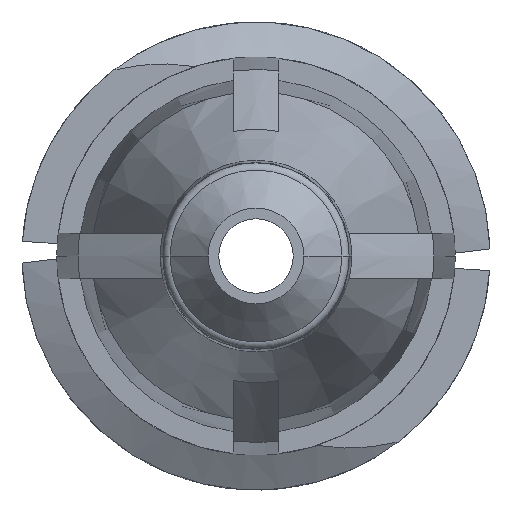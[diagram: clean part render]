
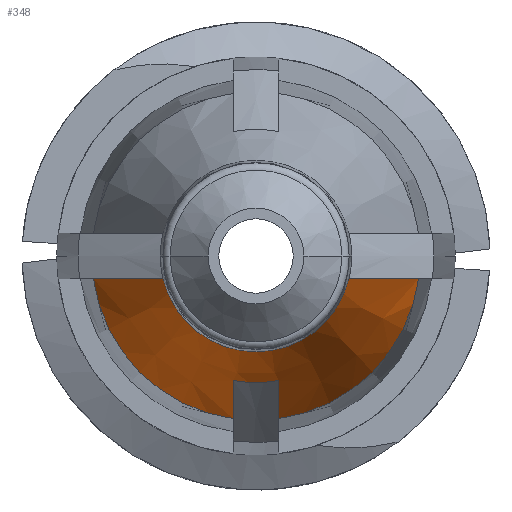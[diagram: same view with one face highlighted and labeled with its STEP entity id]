
A CAD part, front view. The second image highlights one B-rep face of the part: STEP entity #348.
In plain terms, the highlighted conical face has half-angle 20 degrees and reference radius 2.745 mm.
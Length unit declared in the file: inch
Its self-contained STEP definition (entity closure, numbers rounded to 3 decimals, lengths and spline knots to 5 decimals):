
#106 = VERTEX_POINT ( 'NONE', #3025 ) ;
#109 = VERTEX_POINT ( 'NONE', #1720 ) ;
#130 = CIRCLE ( 'NONE', #3106, 0.063 ) ;
#260 = DIRECTION ( 'NONE',  ( 1., 0., 0. ) ) ;
#264 = VERTEX_POINT ( 'NONE', #686 ) ;
#268 = DIRECTION ( 'NONE',  ( 1., 0., 0. ) ) ;
#345 = CARTESIAN_POINT ( 'NONE',  ( -0.015, -0.47395, -0.08198 ) ) ;
#348 = ADVANCED_FACE ( 'NONE', ( #1577 ), #950, .T. ) ;
#349 = CARTESIAN_POINT ( 'NONE',  ( 0.015, -0.47395, -0.08198 ) ) ;
#351 = EDGE_CURVE ( 'NONE', #2028, #3235, #2792, .T. ) ;
#360 = CARTESIAN_POINT ( 'NONE',  ( -0.07664, -0.48863, -0.015 ) ) ;
#374 = DIRECTION ( 'NONE',  ( 1., 0., 0. ) ) ;
#391 = CARTESIAN_POINT ( 'NONE',  ( 0.015, -0.406, -0.10703 ) ) ;
#397 = CARTESIAN_POINT ( 'NONE',  ( 0.10703, -0.406, -0.015 ) ) ;
#401 = EDGE_CURVE ( 'NONE', #1394, #264, #130, .T. ) ;
#416 = ORIENTED_EDGE ( 'NONE', *, *, #2676, .F. ) ;
#513 = AXIS2_PLACEMENT_3D ( 'NONE', #1334, #2452, #1602 ) ;
#517 = DIRECTION ( 'NONE',  ( 0., 1., 0. ) ) ;
#622 = CARTESIAN_POINT ( 'NONE',  ( 0.015, -0.47395, -0.08198 ) ) ;
#638 = EDGE_CURVE ( 'NONE', #1394, #109, #949, .T. ) ;
#670 = B_SPLINE_CURVE_WITH_KNOTS ( 'NONE', 3,
 ( #3366, #360, #2824, #2019 ),
 .UNSPECIFIED., .F., .F.,
 ( 4, 4 ),
 ( 0.00282, 0.00617 ),
 .UNSPECIFIED. ) ;
#679 = ORIENTED_EDGE ( 'NONE', *, *, #401, .T. ) ;
#686 = CARTESIAN_POINT ( 'NONE',  ( -0.06119, -0.52985, -0.015 ) ) ;
#808 = CIRCLE ( 'NONE', #1064, 0.10808 ) ;
#818 = EDGE_CURVE ( 'NONE', #3235, #106, #1411, .T. ) ;
#840 = DIRECTION ( 'NONE',  ( 1., 0., 0. ) ) ;
#866 = CARTESIAN_POINT ( 'NONE',  ( 0.015, -0.406, -0.10703 ) ) ;
#897 = CARTESIAN_POINT ( 'NONE',  ( -0.015, -0.406, -0.10703 ) ) ;
#949 = B_SPLINE_CURVE_WITH_KNOTS ( 'NONE', 3,
 ( #2365, #1818, #2903, #397 ),
 .UNSPECIFIED., .F., .F.,
 ( 4, 4 ),
 ( 0.00282, 0.00617 ),
 .UNSPECIFIED. ) ;
#950 = CONICAL_SURFACE ( 'NONE', #2864, 0.10808, 0.349 ) ;
#1004 = ORIENTED_EDGE ( 'NONE', *, *, #2661, .T. ) ;
#1025 = CARTESIAN_POINT ( 'NONE',  ( 0.06119, -0.52985, -0.015 ) ) ;
#1064 = AXIS2_PLACEMENT_3D ( 'NONE', #2488, #1953, #840 ) ;
#1205 = DIRECTION ( 'NONE',  ( 0., 1., 0. ) ) ;
#1226 = B_SPLINE_CURVE_WITH_KNOTS ( 'NONE', 3,
 ( #866, #3072, #2555, #622 ),
 .UNSPECIFIED., .F., .F.,
 ( 4, 4 ),
 ( 0.00343, 0.00527 ),
 .UNSPECIFIED. ) ;
#1292 = VERTEX_POINT ( 'NONE', #1997 ) ;
#1334 = CARTESIAN_POINT ( 'NONE',  ( 0., -0.47395, 0. ) ) ;
#1368 = ORIENTED_EDGE ( 'NONE', *, *, #638, .F. ) ;
#1394 = VERTEX_POINT ( 'NONE', #1025 ) ;
#1398 = DIRECTION ( 'NONE',  ( 0., 1., 0. ) ) ;
#1411 = B_SPLINE_CURVE_WITH_KNOTS ( 'NONE', 3,
 ( #2841, #1454, #1731, #897 ),
 .UNSPECIFIED., .F., .F.,
 ( 4, 4 ),
 ( 0.00247, 0.00431 ),
 .UNSPECIFIED. ) ;
#1454 = CARTESIAN_POINT ( 'NONE',  ( -0.015, -0.45131, -0.09036 ) ) ;
#1481 = ORIENTED_EDGE ( 'NONE', *, *, #818, .F. ) ;
#1514 = ORIENTED_EDGE ( 'NONE', *, *, #1901, .F. ) ;
#1577 = FACE_OUTER_BOUND ( 'NONE', #3295, .T. ) ;
#1602 = DIRECTION ( 'NONE',  ( -1., 0., 0. ) ) ;
#1658 = CIRCLE ( 'NONE', #1887, 0.10808 ) ;
#1675 = ORIENTED_EDGE ( 'NONE', *, *, #351, .F. ) ;
#1711 = EDGE_CURVE ( 'NONE', #106, #1292, #808, .T. ) ;
#1720 = CARTESIAN_POINT ( 'NONE',  ( 0.10703, -0.406, -0.015 ) ) ;
#1731 = CARTESIAN_POINT ( 'NONE',  ( -0.015, -0.42866, -0.0987 ) ) ;
#1818 = CARTESIAN_POINT ( 'NONE',  ( 0.07664, -0.48863, -0.015 ) ) ;
#1887 = AXIS2_PLACEMENT_3D ( 'NONE', #2036, #1205, #374 ) ;
#1901 = EDGE_CURVE ( 'NONE', #109, #2842, #1658, .T. ) ;
#1930 = ORIENTED_EDGE ( 'NONE', *, *, #1711, .F. ) ;
#1953 = DIRECTION ( 'NONE',  ( 0., 1., 0. ) ) ;
#1997 = CARTESIAN_POINT ( 'NONE',  ( -0.10703, -0.406, -0.015 ) ) ;
#2019 = CARTESIAN_POINT ( 'NONE',  ( -0.10703, -0.406, -0.015 ) ) ;
#2028 = VERTEX_POINT ( 'NONE', #349 ) ;
#2036 = CARTESIAN_POINT ( 'NONE',  ( 0., -0.406, 0. ) ) ;
#2365 = CARTESIAN_POINT ( 'NONE',  ( 0.06119, -0.52985, -0.015 ) ) ;
#2452 = DIRECTION ( 'NONE',  ( 0., 1., 0. ) ) ;
#2488 = CARTESIAN_POINT ( 'NONE',  ( 0., -0.406, 0. ) ) ;
#2555 = CARTESIAN_POINT ( 'NONE',  ( 0.015, -0.45131, -0.09036 ) ) ;
#2661 = EDGE_CURVE ( 'NONE', #264, #1292, #670, .T. ) ;
#2676 = EDGE_CURVE ( 'NONE', #2842, #2028, #1226, .T. ) ;
#2764 = CARTESIAN_POINT ( 'NONE',  ( 0., -0.52985, 0. ) ) ;
#2792 = CIRCLE ( 'NONE', #513, 0.08335 ) ;
#2824 = CARTESIAN_POINT ( 'NONE',  ( -0.09185, -0.44732, -0.015 ) ) ;
#2841 = CARTESIAN_POINT ( 'NONE',  ( -0.015, -0.47395, -0.08198 ) ) ;
#2842 = VERTEX_POINT ( 'NONE', #391 ) ;
#2864 = AXIS2_PLACEMENT_3D ( 'NONE', #3252, #517, #260 ) ;
#2903 = CARTESIAN_POINT ( 'NONE',  ( 0.09185, -0.44732, -0.015 ) ) ;
#3025 = CARTESIAN_POINT ( 'NONE',  ( -0.015, -0.406, -0.10703 ) ) ;
#3072 = CARTESIAN_POINT ( 'NONE',  ( 0.015, -0.42866, -0.0987 ) ) ;
#3106 = AXIS2_PLACEMENT_3D ( 'NONE', #2764, #1398, #268 ) ;
#3235 = VERTEX_POINT ( 'NONE', #345 ) ;
#3252 = CARTESIAN_POINT ( 'NONE',  ( 0., -0.406, 0. ) ) ;
#3295 = EDGE_LOOP ( 'NONE', ( #1368, #679, #1004, #1930, #1481, #1675, #416, #1514 ) ) ;
#3366 = CARTESIAN_POINT ( 'NONE',  ( -0.06119, -0.52985, -0.015 ) ) ;
